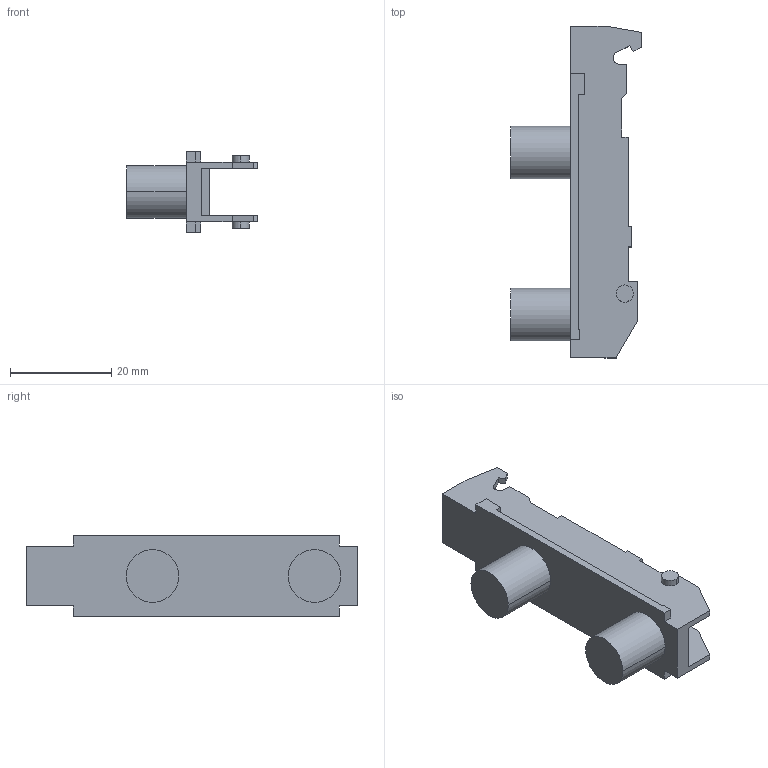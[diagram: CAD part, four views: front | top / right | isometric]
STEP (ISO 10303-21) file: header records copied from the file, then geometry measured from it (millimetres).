
FILE_DESCRIPTION (( 'STEP AP214' ), '1' );
FILE_NAME ('1D_Linearmontageplatte 20_32_10mm Dübel_H3,5.step', '2010-11-18T10:17:30', ( 'grass' ), ( '' ), 'SwSTEP 2.0', 'SolidWorks 2010', '' );
FILE_SCHEMA (( 'AUTOMOTIVE_DESIGN' ));
Length unit declared in the file: millimetre
Products named in the file (1): 1D_Linearmontageplatte 20_32_10mm Dübel_H3,5
Bounding box: 25.8 x 65.5 x 16 mm (x, y, z)
Volume: 6120.1 mm3; surface area: 5639.3 mm2
Topology: 1 solids, 1 shells, 84 faces, 228 edges, 152 vertices
Faces by surface type: plane 70, cylinder 14
Entity records: 2654 total; most frequent: CARTESIAN_POINT 465, ORIENTED_EDGE 456, DIRECTION 426, EDGE_CURVE 228, VECTOR 200, LINE 200, VERTEX_POINT 152, AXIS2_PLACEMENT_3D 113
